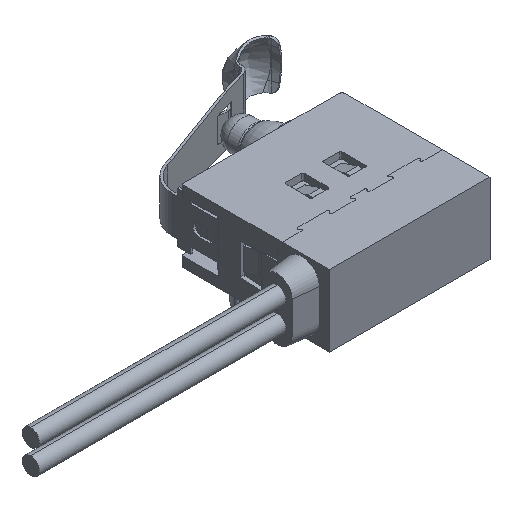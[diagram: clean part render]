
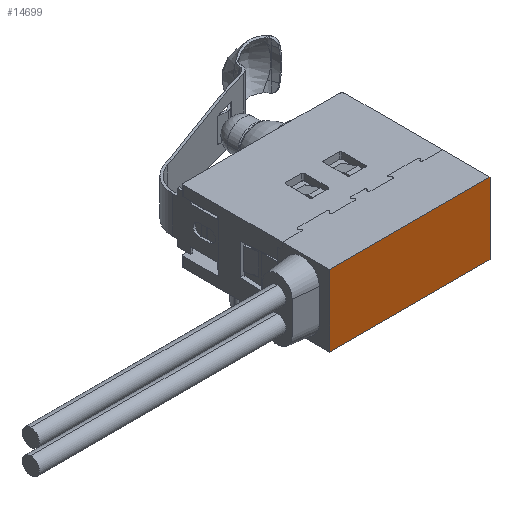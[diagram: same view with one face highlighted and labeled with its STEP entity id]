
A CAD part, isometric view. The second image highlights one B-rep face of the part: STEP entity #14699.
In plain terms, the highlighted planar face has unit normal (0, -1, 0).
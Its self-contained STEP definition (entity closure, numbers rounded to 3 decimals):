
#3551 = DIRECTION ( 'NONE',  ( -1., 0., 0. ) ) ;
#3552 = DIRECTION ( 'NONE',  ( 0., 1., 0. ) ) ;
#3553 = CARTESIAN_POINT ( 'NONE',  ( 6.5, -3.645, 2.9 ) ) ;
#3554 = AXIS2_PLACEMENT_3D ( 'NONE', #3553, #3552, #3551 ) ;
#3556 = PLANE ( 'NONE',  #3554 ) ;
#3646 = FACE_OUTER_BOUND ( 'NONE', #14582, .T. ) ;
#3679 = DIRECTION ( 'NONE',  ( 0., 0., -1. ) ) ;
#3680 = VECTOR ( 'NONE', #3679, 1000. ) ;
#3681 = CARTESIAN_POINT ( 'NONE',  ( -6.5, -3.645, 2.9 ) ) ;
#3682 = LINE ( 'NONE', #3681, #3680 ) ;
#3711 = CARTESIAN_POINT ( 'NONE',  ( -6.5, -3.645, -2.9 ) ) ;
#3712 = DIRECTION ( 'NONE',  ( 1., 0., 0. ) ) ;
#3713 = VECTOR ( 'NONE', #3712, 1000. ) ;
#3714 = CARTESIAN_POINT ( 'NONE',  ( 6.5, -3.645, -2.9 ) ) ;
#3715 = LINE ( 'NONE', #3714, #3713 ) ;
#3716 = CARTESIAN_POINT ( 'NONE',  ( 6.5, -3.645, -2.9 ) ) ;
#4215 = DIRECTION ( 'NONE',  ( 0., 0., -1. ) ) ;
#4216 = VECTOR ( 'NONE', #4215, 1000. ) ;
#4217 = CARTESIAN_POINT ( 'NONE',  ( 6.5, -3.645, 2.9 ) ) ;
#4218 = LINE ( 'NONE', #4217, #4216 ) ;
#4634 = DIRECTION ( 'NONE',  ( 1., 0., 0. ) ) ;
#4635 = VECTOR ( 'NONE', #4634, 1000. ) ;
#4636 = CARTESIAN_POINT ( 'NONE',  ( 6.5, -3.645, 2.9 ) ) ;
#4637 = LINE ( 'NONE', #4636, #4635 ) ;
#4638 = CARTESIAN_POINT ( 'NONE',  ( 6.5, -3.645, 2.9 ) ) ;
#4639 = CARTESIAN_POINT ( 'NONE',  ( -6.5, -3.645, 2.9 ) ) ;
#14582 = EDGE_LOOP ( 'NONE', ( #14596, #14592, #14633, #14634 ) ) ;
#14592 = ORIENTED_EDGE ( 'NONE', *, *, #14859, .F. ) ;
#14596 = ORIENTED_EDGE ( 'NONE', *, *, #14649, .T. ) ;
#14633 = ORIENTED_EDGE ( 'NONE', *, *, #14877, .F. ) ;
#14634 = ORIENTED_EDGE ( 'NONE', *, *, #14655, .T. ) ;
#14647 = VERTEX_POINT ( 'NONE', #3716 ) ;
#14649 = EDGE_CURVE ( 'NONE', #14650, #14647, #3715, .T. ) ;
#14650 = VERTEX_POINT ( 'NONE', #3711 ) ;
#14655 = EDGE_CURVE ( 'NONE', #14872, #14650, #3682, .T. ) ;
#14699 = ADVANCED_FACE ( 'NONE', ( #3646 ), #3556, .F. ) ;
#14859 = EDGE_CURVE ( 'NONE', #14873, #14647, #4218, .T. ) ;
#14872 = VERTEX_POINT ( 'NONE', #4639 ) ;
#14873 = VERTEX_POINT ( 'NONE', #4638 ) ;
#14877 = EDGE_CURVE ( 'NONE', #14872, #14873, #4637, .T. ) ;
